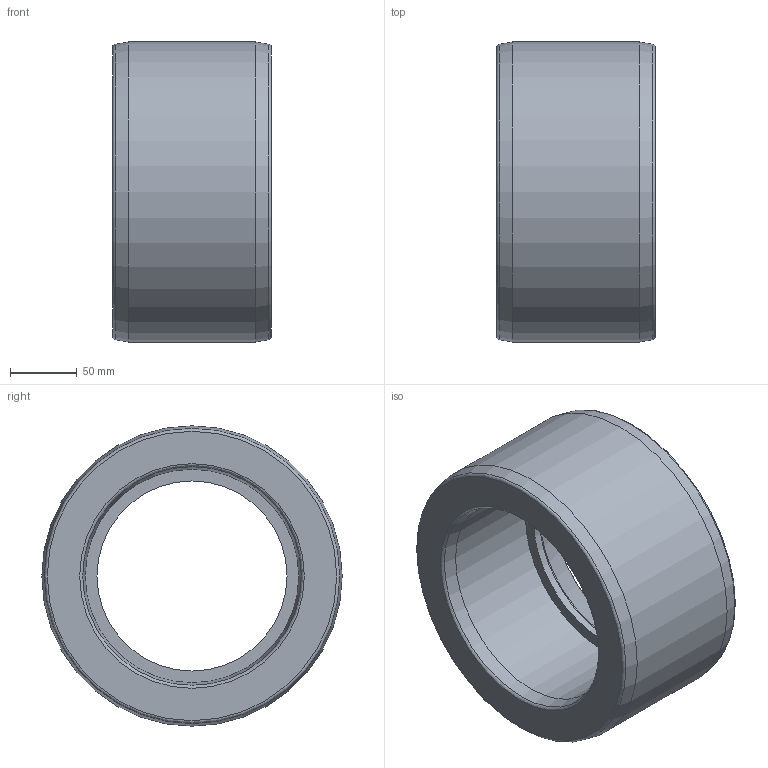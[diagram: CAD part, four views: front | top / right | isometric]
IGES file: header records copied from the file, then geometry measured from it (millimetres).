
Global section: file name: 050900225160.ipt; native system: Autodesk Inventor 2015; preprocessor: unknown; author: KIM; date: 20171207.165203; units: millimetre
Bounding box: 119 x 225 x 225 mm (x, y, z)
Volume: 2344681.6 mm3; surface area: 179984.3 mm2
Topology: 1 solids, 1 shells, 15 faces, 43 edges, 31 vertices
Faces by surface type: revolution 9, plane 3, cone 2, cylinder 1
Full cylindrical faces by diameter (mm): 225 x1
